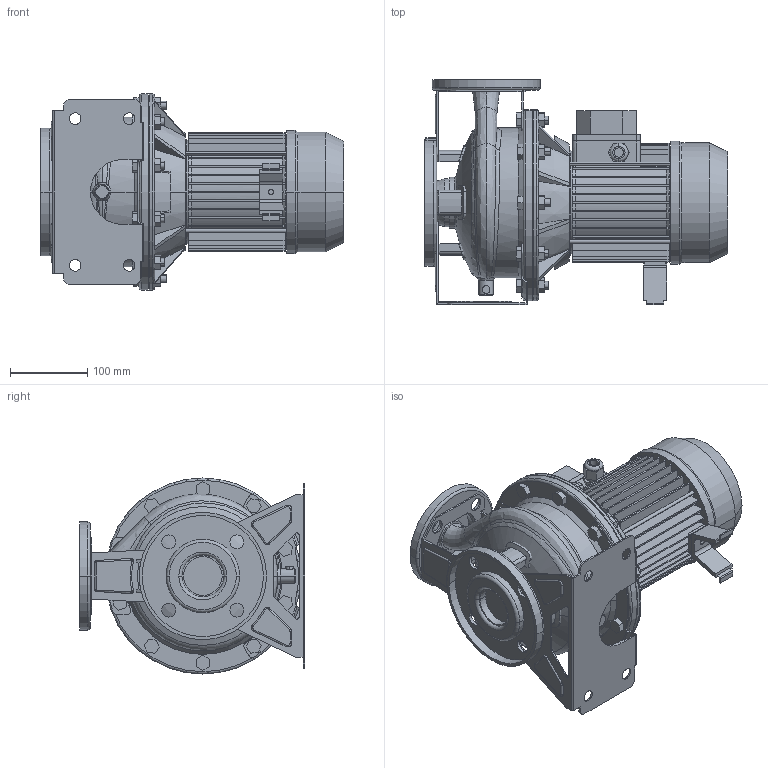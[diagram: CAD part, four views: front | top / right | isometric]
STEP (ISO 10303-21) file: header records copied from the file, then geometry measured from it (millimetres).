
FILE_DESCRIPTION((''),'2;1');
FILE_NAME('3M4_32-160_0_37_ASM','2012-03-15T',('Rosa'),('"Ebara Pumps Europe +39.444.706811"'),'PRO/ENGINEER BY PARAMETRIC TECHNOLOGY CORPORATION, 2009360','PRO/ENGINEER BY PARAMETRIC TECHNOLOGY CORPORATION, 2009360','');
FILE_SCHEMA(('AUTOMOTIVE_DESIGN { 1 0 10303 214 1 1 1 1 }'));
Length unit declared in the file: millimetre
Products named in the file (12): CORPO_32-160; ASP_32-160; FLANGIA_DIN_50; MAND_32-160; FLANGIA_DIN_32; BASE_3M_32-160; CORPO_SALDATO_32-160_ASM; SUPPORTO_3M_190_80; MEC_80; SOSTEGNO_72004; 72015; 3M4_32-160_0_37_ASM
Assembly tree (11 placements, depth 3):
  3M4_32-160_0_37_ASM
    CORPO_SALDATO_32-160_ASM
      CORPO_32-160
      ASP_32-160
      FLANGIA_DIN_50
      MAND_32-160
      FLANGIA_DIN_32
      BASE_3M_32-160
    SUPPORTO_3M_190_80
    MEC_80
    SOSTEGNO_72004
    72015
Bounding box: 393 x 292 x 254 mm (x, y, z)
Volume: 6848677.3 mm3; surface area: 918909.5 mm2
Topology: 13 solids, 13 shells, 1109 faces, 2798 edges, 1773 vertices
Faces by surface type: plane 588, cylinder 312, cone 92, torus 68, bspline 43, sphere 6
Entity records: 48539 total; most frequent: CARTESIAN_POINT 10360, DIRECTION 5722, ORIENTED_EDGE 5596, EDGE_CURVE 2798, PRESENTATION_STYLE_ASSIGNMENT 2726, STYLED_ITEM 2726, CURVE_STYLE 2714, AXIS2_PLACEMENT_3D 2093
